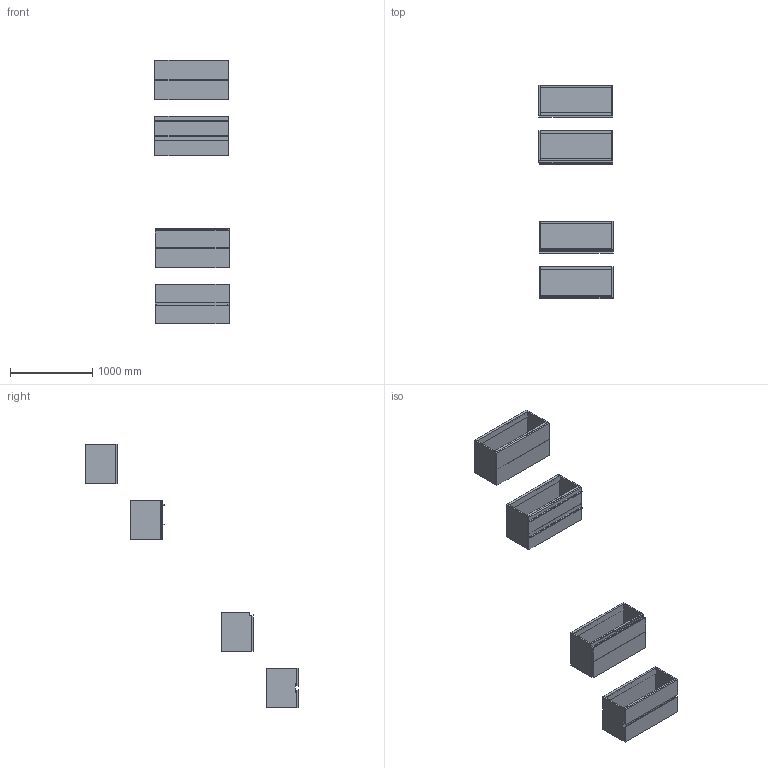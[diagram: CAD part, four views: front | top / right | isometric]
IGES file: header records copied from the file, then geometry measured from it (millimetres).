
Start section: Data from Parasolid IGES Translator 19.0.9, Copyright(c) 2006 Siemens PL M Software. All Rights Reserved.
Global section: file name: noorth-SI-H 48 D 38,8 W 90_8393.igs; native system: By Siemens PLM Incorporated; preprocessor: XPlus GENERIC/IGES 19.0.9; author: Noname; organization: Noname; date: 20200601.101502; units: metre
Bounding box: 904.84 x 2585.1 x 3199.21 mm (x, y, z)
Volume: 88387955.6 mm3; surface area: 14029944.5 mm2
Topology: 37 solids, 37 shells, 342 faces, 748 edges, 460 vertices
Faces by surface type: plane 254, extrusion 36, bspline 32, cylinder 20
